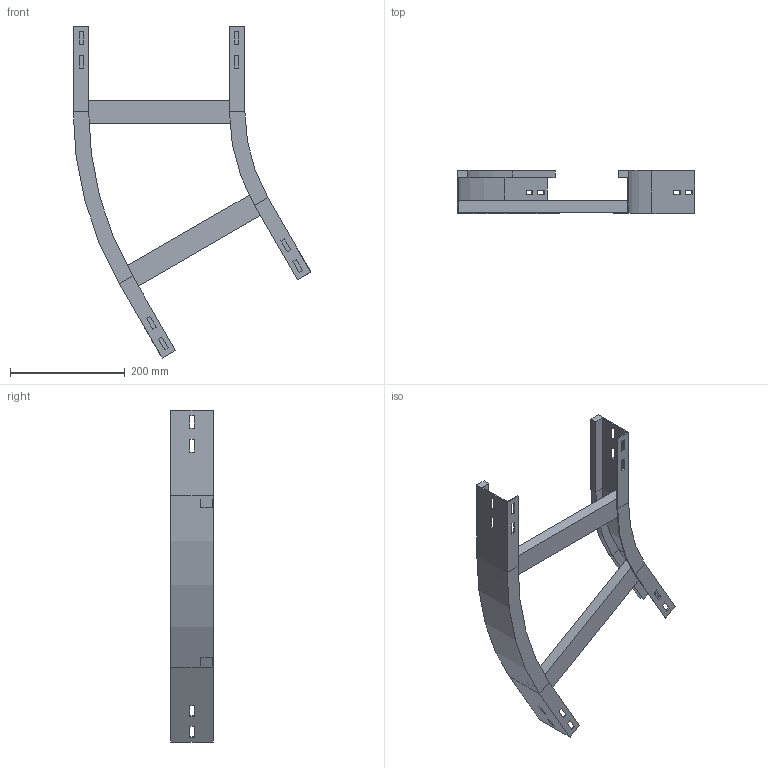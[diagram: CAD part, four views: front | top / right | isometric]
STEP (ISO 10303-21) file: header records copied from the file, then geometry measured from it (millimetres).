
FILE_DESCRIPTION (( 'STEP AP214' ), '1' );
FILE_NAME ('A2_12B3C300.step', '2025-02-21T15:10:36', ( '' ), ( '' ), 'SwSTEP 2.0', 'SolidWorks 2023', '' );
FILE_SCHEMA (( 'AUTOMOTIVE_DESIGN' ));
Length unit declared in the file: millimetre
Products named in the file (4): A2_12B3C300; A2_LONGH.INTERNO 30°_H75_R300; TRAVERSINO_300; A2_LONGH.ESTERNO 30°_H75_R300+300
Assembly tree (4 placements, depth 2):
  A2_12B3C300
    A2_LONGH.INTERNO 30°_H75_R300
    A2_LONGH.ESTERNO 30°_H75_R300+300
    TRAVERSINO_300  x2
Bounding box: 415.19 x 75 x 579.9 mm (x, y, z)
Volume: 894517.6 mm3; surface area: 326180.4 mm2
Topology: 4 solids, 4 shells, 128 faces, 328 edges, 208 vertices
Faces by surface type: plane 120, cylinder 8
Entity records: 3813 total; most frequent: CARTESIAN_POINT 645, ORIENTED_EDGE 632, DIRECTION 590, EDGE_CURVE 316, VECTOR 300, LINE 300, VERTEX_POINT 200, EDGE_LOOP 154
